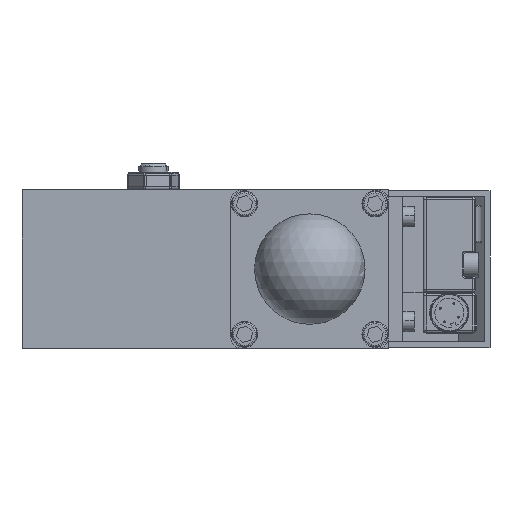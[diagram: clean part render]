
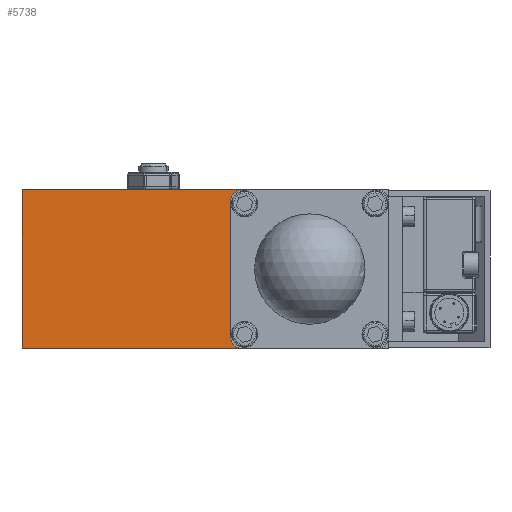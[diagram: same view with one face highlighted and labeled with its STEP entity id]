
A CAD part, front view. The second image highlights one B-rep face of the part: STEP entity #5738.
In plain terms, the highlighted planar face has unit normal (0, -1, 0).
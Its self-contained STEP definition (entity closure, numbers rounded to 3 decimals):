
#1678=CARTESIAN_POINT('',(37.481,-30.939,26.078));
#1679=VERTEX_POINT('',#1678);
#1695=CARTESIAN_POINT('',(40.309,-30.939,27.25));
#1696=VERTEX_POINT('',#1695);
#1703=CARTESIAN_POINT('',(40.309,-30.939,23.25));
#1704=DIRECTION('',(0.,1.0,0.));
#1705=DIRECTION('',(0.383,0.,-0.924));
#1706=AXIS2_PLACEMENT_3D('',#1703,#1704,#1705);
#1707=CIRCLE('',#1706,4.);
#1708=EDGE_CURVE('',#1679,#1696,#1707,.T.);
#1720=CARTESIAN_POINT('',(37.481,-30.939,-26.078));
#1721=VERTEX_POINT('',#1720);
#1737=CARTESIAN_POINT('',(36.309,-30.939,-23.25));
#1738=VERTEX_POINT('',#1737);
#1745=CARTESIAN_POINT('',(40.309,-30.939,-23.25));
#1746=DIRECTION('',(0.,1.0,0.));
#1747=DIRECTION('',(0.924,0.,0.383));
#1748=AXIS2_PLACEMENT_3D('',#1745,#1746,#1747);
#1749=CIRCLE('',#1748,4.);
#1750=EDGE_CURVE('',#1721,#1738,#1749,.T.);
#5322=CARTESIAN_POINT('',(36.309,-30.939,23.25));
#5323=VERTEX_POINT('',#5322);
#5332=CARTESIAN_POINT('',(36.309,-30.939,-23.25));
#5333=DIRECTION('',(0.0,0.0,1.0));
#5334=VECTOR('',#5333,46.5);
#5335=LINE('',#5332,#5334);
#5336=EDGE_CURVE('',#1738,#5323,#5335,.T.);
#5476=CARTESIAN_POINT('',(40.309,-30.939,-27.25));
#5477=VERTEX_POINT('',#5476);
#5514=CARTESIAN_POINT('',(40.309,-30.939,-23.25));
#5515=DIRECTION('',(0.,1.0,0.));
#5516=DIRECTION('',(0.383,0.,0.924));
#5517=AXIS2_PLACEMENT_3D('',#5514,#5515,#5516);
#5518=CIRCLE('',#5517,4.);
#5519=EDGE_CURVE('',#5477,#1721,#5518,.T.);
#5570=CARTESIAN_POINT('',(40.309,-30.939,23.25));
#5571=DIRECTION('',(0.,1.0,0.));
#5572=DIRECTION('',(0.924,0.,-0.383));
#5573=AXIS2_PLACEMENT_3D('',#5570,#5571,#5572);
#5574=CIRCLE('',#5573,4.);
#5575=EDGE_CURVE('',#5323,#1679,#5574,.T.);
#5704=CARTESIAN_POINT('',(-41.741,-30.939,29.975));
#5705=DIRECTION('',(0.0,-1.0,0.0));
#5706=DIRECTION('',(0.0,0.0,-1.0));
#5707=AXIS2_PLACEMENT_3D('',#5704,#5705,#5706);
#5708=PLANE('',#5707);
#5709=ORIENTED_EDGE('',*,*,#5519,.T.);
#5710=ORIENTED_EDGE('',*,*,#1750,.T.);
#5711=ORIENTED_EDGE('',*,*,#5336,.T.);
#5712=ORIENTED_EDGE('',*,*,#5575,.T.);
#5713=ORIENTED_EDGE('',*,*,#1708,.T.);
#5714=CARTESIAN_POINT('',(-35.441,-30.939,27.25));
#5715=VERTEX_POINT('',#5714);
#5716=CARTESIAN_POINT('',(40.309,-30.939,27.25));
#5717=DIRECTION('',(-1.0,0.0,0.0));
#5718=VECTOR('',#5717,75.75);
#5719=LINE('',#5716,#5718);
#5720=EDGE_CURVE('',#1696,#5715,#5719,.T.);
#5721=ORIENTED_EDGE('',*,*,#5720,.T.);
#5722=CARTESIAN_POINT('',(-35.441,-30.939,-27.25));
#5723=VERTEX_POINT('',#5722);
#5724=CARTESIAN_POINT('',(-35.441,-30.939,-27.25));
#5725=DIRECTION('',(0.0,0.0,1.0));
#5726=VECTOR('',#5725,54.5);
#5727=LINE('',#5724,#5726);
#5728=EDGE_CURVE('',#5723,#5715,#5727,.T.);
#5729=ORIENTED_EDGE('',*,*,#5728,.F.);
#5730=CARTESIAN_POINT('',(40.309,-30.939,-27.25));
#5731=DIRECTION('',(-1.0,0.0,0.0));
#5732=VECTOR('',#5731,75.75);
#5733=LINE('',#5730,#5732);
#5734=EDGE_CURVE('',#5477,#5723,#5733,.T.);
#5735=ORIENTED_EDGE('',*,*,#5734,.F.);
#5736=EDGE_LOOP('',(#5709,#5710,#5711,#5712,#5713,#5721,#5729,#5735));
#5737=FACE_OUTER_BOUND('',#5736,.T.);
#5738=ADVANCED_FACE('',(#5737),#5708,.T.);
